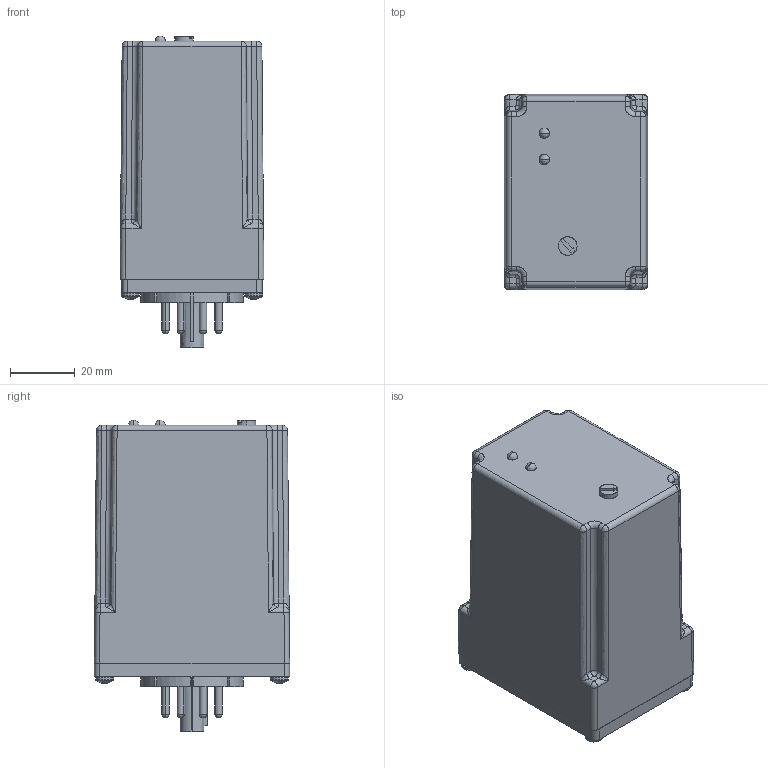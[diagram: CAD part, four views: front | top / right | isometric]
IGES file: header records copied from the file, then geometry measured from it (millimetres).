
Start section: SolidWorks IGES file using analytic representation for surfaces
Global section: file name: C:\Documents and Settings\Joshua\Desktop\eric\090413\SFP Single LCP Single Dual-2 LED.igs; native system: SolidWorks 2007; preprocessor: SolidWorks 2007; author: Joshua; date: 140904.220256; units: inch
Bounding box: 44.45 x 60.33 x 96.33 mm (x, y, z)
Surface area: 28876.5 mm2 (no closed solid volume)
Topology: 0 solids, 0 shells, 698 faces, 8602 edges, 8530 vertices
Faces by surface type: revolution 354, bspline 344
